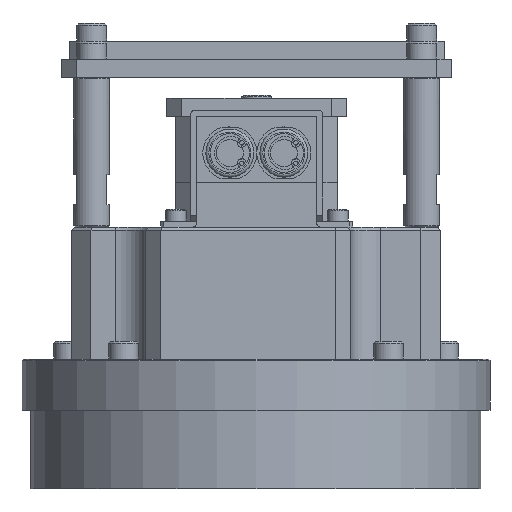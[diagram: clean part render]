
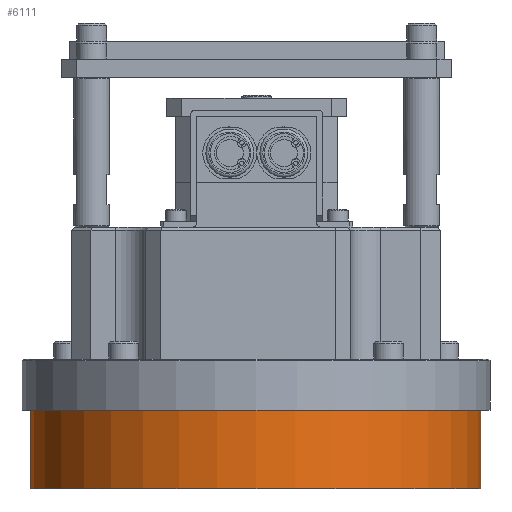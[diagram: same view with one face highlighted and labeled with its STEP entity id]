
A CAD part, left-side view. The second image highlights one B-rep face of the part: STEP entity #6111.
In plain terms, the highlighted cylindrical face has radius 75 mm (diameter 150 mm), a partial arc.
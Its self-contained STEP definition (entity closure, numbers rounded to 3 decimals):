
#6111=ADVANCED_FACE('',(#12101),#12102,.T.);
#12101=FACE_OUTER_BOUND('',#18335,.T.);
#12102=CYLINDRICAL_SURFACE('',#18336,75.0);
#18335=EDGE_LOOP('',(#29933,#29934,#29935,#29936));
#18336=AXIS2_PLACEMENT_3D('',#29937,#29938,#29939);
#29933=ORIENTED_EDGE('',*,*,#36503,.F.);
#29934=ORIENTED_EDGE('',*,*,#36490,.F.);
#29935=ORIENTED_EDGE('',*,*,#36509,.T.);
#29936=ORIENTED_EDGE('',*,*,#36498,.T.);
#29937=CARTESIAN_POINT('',(-100.0,0.0,3.2));
#29938=DIRECTION('',(0.0,0.0,-1.0));
#29939=DIRECTION('',(-1.0,0.0,0.0));
#36490=EDGE_CURVE('',#42837,#42832,#42839,.T.);
#36498=EDGE_CURVE('',#42853,#42851,#42854,.T.);
#36503=EDGE_CURVE('',#42832,#42851,#42860,.T.);
#36509=EDGE_CURVE('',#42837,#42853,#42868,.T.);
#42832=VERTEX_POINT('',#51722);
#42837=VERTEX_POINT('',#51729);
#42839=LINE('',#51732,#51733);
#42851=VERTEX_POINT('',#51749);
#42853=VERTEX_POINT('',#51752);
#42854=LINE('',#51753,#51754);
#42860=CIRCLE('',#51762,75.0);
#42868=CIRCLE('',#51771,75.0);
#51722=CARTESIAN_POINT('',(-100.0,75.0,3.2));
#51729=CARTESIAN_POINT('',(-100.0,75.0,-29.8));
#51732=CARTESIAN_POINT('',(-100.0,75.0,-29.8));
#51733=VECTOR('',#57776,1.0);
#51749=CARTESIAN_POINT('',(-100.0,-75.0,3.2));
#51752=CARTESIAN_POINT('',(-100.0,-75.0,-29.8));
#51753=CARTESIAN_POINT('',(-100.0,-75.0,-29.8));
#51754=VECTOR('',#57782,1.0);
#51762=AXIS2_PLACEMENT_3D('',#57788,#57789,#57790);
#51771=AXIS2_PLACEMENT_3D('',#57801,#57802,#57803);
#57776=DIRECTION('',(0.0,0.0,1.0));
#57782=DIRECTION('',(0.0,0.0,1.0));
#57788=CARTESIAN_POINT('',(-100.0,0.0,3.2));
#57789=DIRECTION('',(0.0,0.0,1.0));
#57790=DIRECTION('',(1.0,0.0,0.0));
#57801=CARTESIAN_POINT('',(-100.0,0.0,-29.8));
#57802=DIRECTION('',(0.0,0.0,1.0));
#57803=DIRECTION('',(1.0,0.0,0.0));
